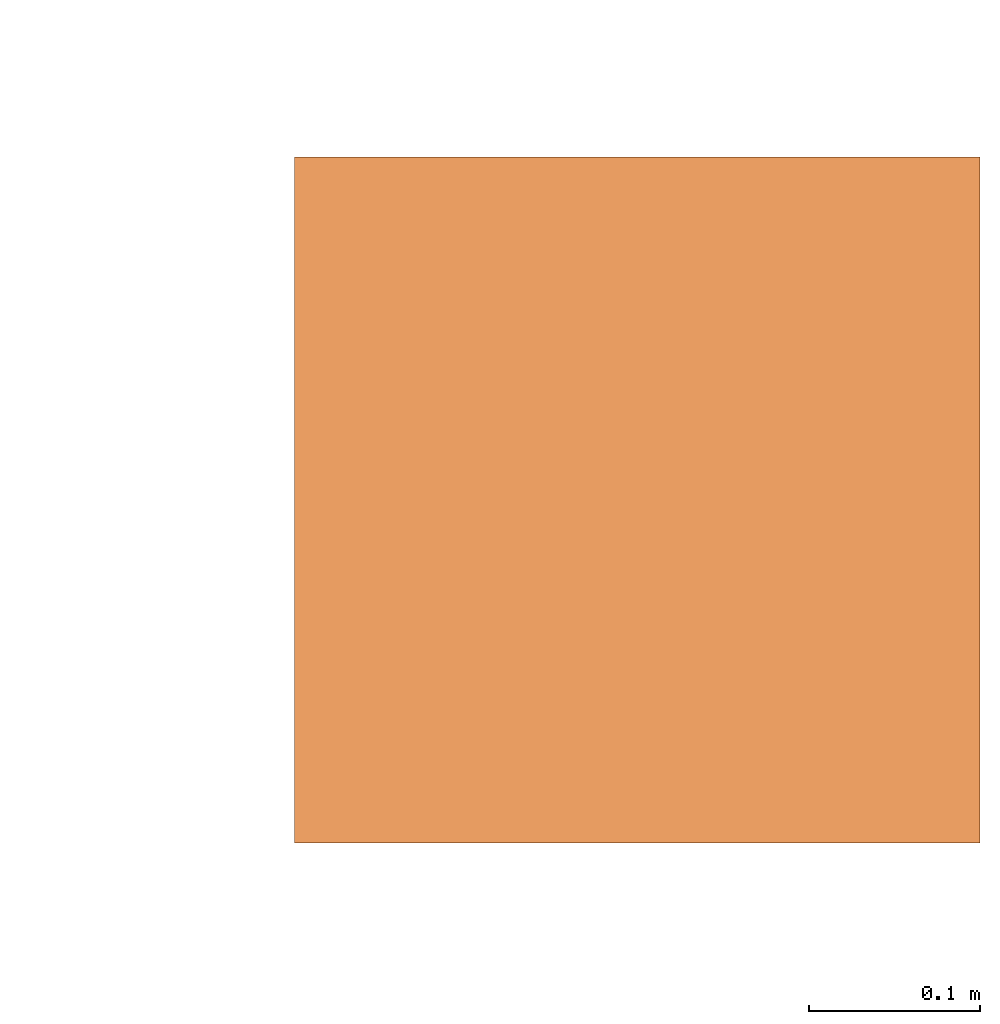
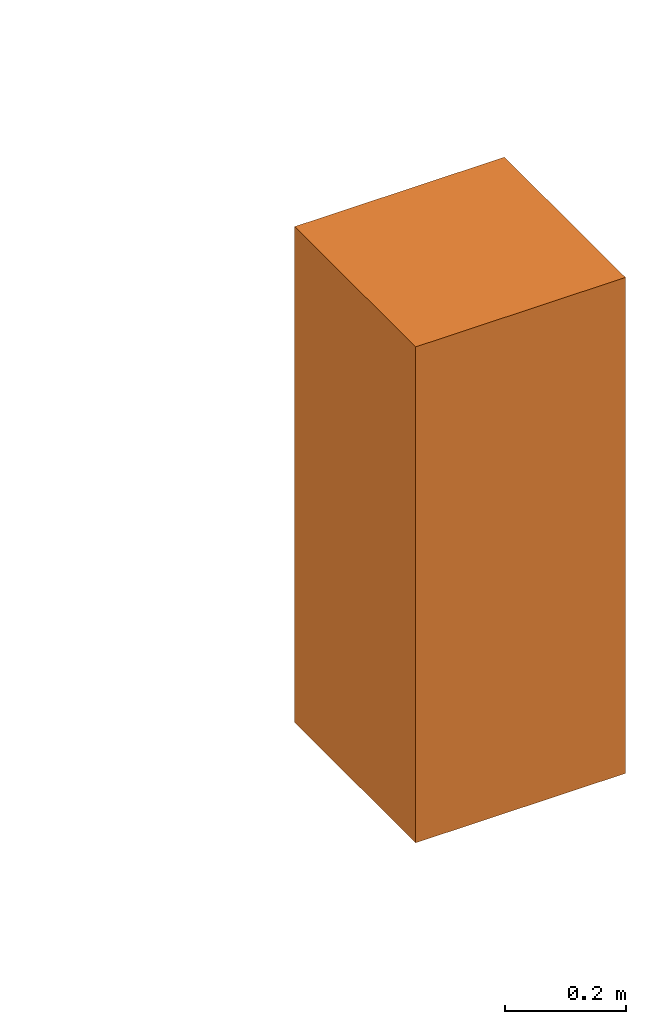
# One storey, part 33 of 33: 1 proxy.
"""IFC2X3 building model written with IfcOpenShell, lengths in millimetres."""

from ifc_helpers import new_model, entity, si_unit, converted_unit, derived_unit, money_unit, direction, frame, origin_with_axes, place, context, subcontext, project, spatial, faceted_brep, type_object, element, save


model = new_model("IFC2X3")

# Units and contexts
model_context = context("Model", 3, precision=0.01, world=origin_with_axes(), true_north=direction((0.0, 1.0)))
body_context = subcontext(model_context, "Body", "Model", "MODEL_VIEW")
ifc_project = project(units=[si_unit("LENGTHUNIT", "METRE", prefix="MILLI"), si_unit("AREAUNIT", "SQUARE_METRE"), si_unit("VOLUMEUNIT", "CUBIC_METRE"), converted_unit("PLANEANGLEUNIT", "DEGREE", entity("IfcPlaneAngleMeasure", 0.0174532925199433), si_unit("PLANEANGLEUNIT", "RADIAN"), dimensions=[0, 0, 0, 0, 0, 0, 0]), money_unit("EUR"), converted_unit("TIMEUNIT", "Year", entity("IfcTimeMeasure", 31556926.0), si_unit("TIMEUNIT", "SECOND"), dimensions=[0, 0, 1, 0, 0, 0, 0]), si_unit("MASSUNIT", "GRAM", prefix="KILO"), si_unit("THERMODYNAMICTEMPERATUREUNIT", "DEGREE_CELSIUS"), si_unit("LUMINOUSINTENSITYUNIT", "LUMEN"), si_unit("ENERGYUNIT", "JOULE", prefix="MEGA"), derived_unit("THERMALCONDUCTANCEUNIT", [(si_unit("POWERUNIT", "WATT"), 1), (si_unit("LENGTHUNIT", "METRE"), -1), (si_unit("THERMODYNAMICTEMPERATUREUNIT", "KELVIN"), -1)]), derived_unit("SPECIFICHEATCAPACITYUNIT", [(si_unit("ENERGYUNIT", "JOULE"), 1), (si_unit("MASSUNIT", "GRAM", prefix="KILO"), -1), (si_unit("THERMODYNAMICTEMPERATUREUNIT", "KELVIN"), -1)]), derived_unit("MASSDENSITYUNIT", [(si_unit("MASSUNIT", "GRAM", prefix="KILO"), 1), (si_unit("VOLUMEUNIT", "CUBIC_METRE"), -1)])], contexts=[model_context])

# Site, building, storey
site_placement = place(None, origin_with_axes())
site = spatial("IfcSite", under=ifc_project, at=site_placement, Name="Paldiski mnt 245/1, Tallinn, Harjumaa", CompositionType="COMPLEX")
building_placement = place(site_placement, origin_with_axes())
building = spatial("IfcBuilding", under=site, at=building_placement, Name="RKAS Hoone üldnimetus (kasutust iseloomustav) -> IFC Project Manager -> SOLIBRI", CompositionType="ELEMENT")
storey_placement = place(building_placement, origin_with_axes())
storey = spatial("IfcBuildingStorey", under=building, at=storey_placement, Name="Esimene korrus", CompositionType="ELEMENT", Elevation=0.0)

# Proxy
building_element_proxy_type = type_object("IfcBuildingElementProxyType", Name="Cube 26", PredefinedType="NOTDEFINED")
proxy_placement = place(storey_placement, frame((-200.0, -200.0, 0.0), z_axis=(0.0, 0.0, 1.0), x_axis=(1.0, 0.0, 0.0)))
element("IfcBuildingElementProxy", 1, at=proxy_placement, inside=storey, type_object=building_element_proxy_type, Name="REEPER", context=body_context, shape_type="Brep", body=[
    faceted_brep([(400.0, 0.0, 0.0), (0.0, 0.0, 0.0), (0.0, 400.0, 0.0), (400.0, 400.0, 0.0), (400.0, 0.0, 1000.0), (0.0, 0.0, 1000.0), (0.0, 400.0, 1000.0), (400.0, 400.0, 1000.0)], [[[0, 1, 2, 3]], [[1, 0, 4, 5]], [[2, 1, 5, 6]], [[3, 2, 6, 7]], [[0, 3, 7, 4]], [[5, 4, 7, 6]]]),
])

save(model, "model.ifc")
